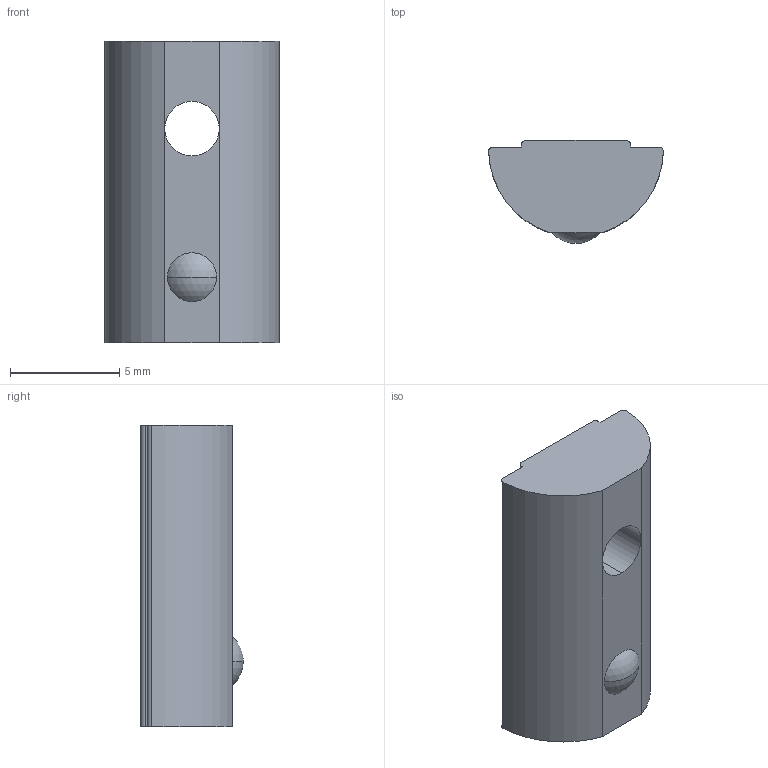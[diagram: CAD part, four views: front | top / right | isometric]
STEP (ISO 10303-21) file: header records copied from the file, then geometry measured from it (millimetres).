
FILE_DESCRIPTION (( 'STEP AP203' ), '1' );
FILE_NAME ('LIMA-LHNR3-62020.STEP', '2018-03-15T12:13:13', ( '' ), ( '' ), 'SwSTEP 2.0', 'SolidWorks 2013', '' );
FILE_SCHEMA (( 'CONFIG_CONTROL_DESIGN' ));
Length unit declared in the file: millimetre
Products named in the file (1): LIMA-LHNR3-62020
Bounding box: 8 x 4.7 x 13.8 mm (x, y, z)
Volume: 353.9 mm3; surface area: 367.6 mm2
Topology: 1 solids, 1 shells, 20 faces, 53 edges, 35 vertices
Faces by surface type: cylinder 9, plane 9, sphere 2
Entity records: 714 total; most frequent: DIRECTION 119, CARTESIAN_POINT 109, ORIENTED_EDGE 106, EDGE_CURVE 53, AXIS2_PLACEMENT_3D 45, VERTEX_POINT 35, LINE 29, VECTOR 29
